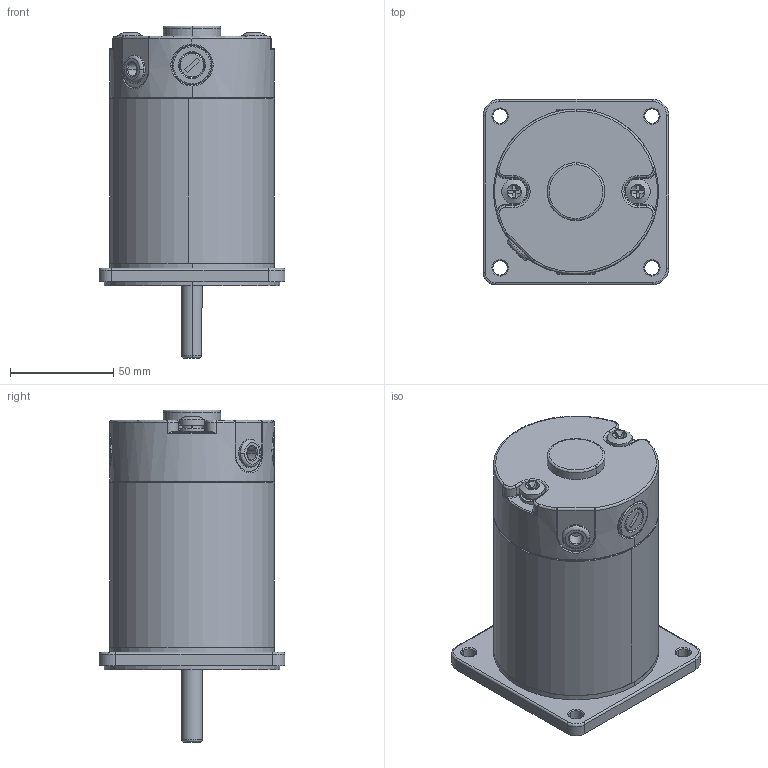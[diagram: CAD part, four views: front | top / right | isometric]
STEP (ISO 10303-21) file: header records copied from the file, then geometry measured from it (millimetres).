
FILE_DESCRIPTION (( 'STEP AP203' ), '1' );
FILE_NAME ('90嫖萇儂80儂褲.STEP', '2021-07-17T08:25:30', ( '' ), ( '' ), 'SwSTEP 2.0', 'SolidWorks 2021', '' );
FILE_SCHEMA (( 'CONFIG_CONTROL_DESIGN' ));
Length unit declared in the file: millimetre
Products named in the file (7): JIKE-99_1; TANDIAN_2_1; 90嫖萇儂80儂褲; HOUGAI-80-1_2_1; QIGAI_1_1; PENGDIAN_2_1; LUDING_2_1
Assembly tree (9 placements, depth 2):
  90嫖萇儂80儂褲
    JIKE-99_1
    QIGAI_1_1
    LUDING_2_1  x2
    TANDIAN_2_1  x2
    PENGDIAN_2_1  x2
    HOUGAI-80-1_2_1
Bounding box: 90 x 90 x 161 mm (x, y, z)
Volume: 189736 mm3; surface area: 93365.3 mm2
Topology: 14 solids, 14 shells, 376 faces, 885 edges, 545 vertices
Faces by surface type: cylinder 140, plane 100, cone 72, bspline 61, torus 3
Entity records: 13107 total; most frequent: CARTESIAN_POINT 5317, ORIENTED_EDGE 1464, DIRECTION 1461, EDGE_CURVE 732, AXIS2_PLACEMENT_3D 587, VERTEX_POINT 454, EDGE_LOOP 354, CIRCLE 320
